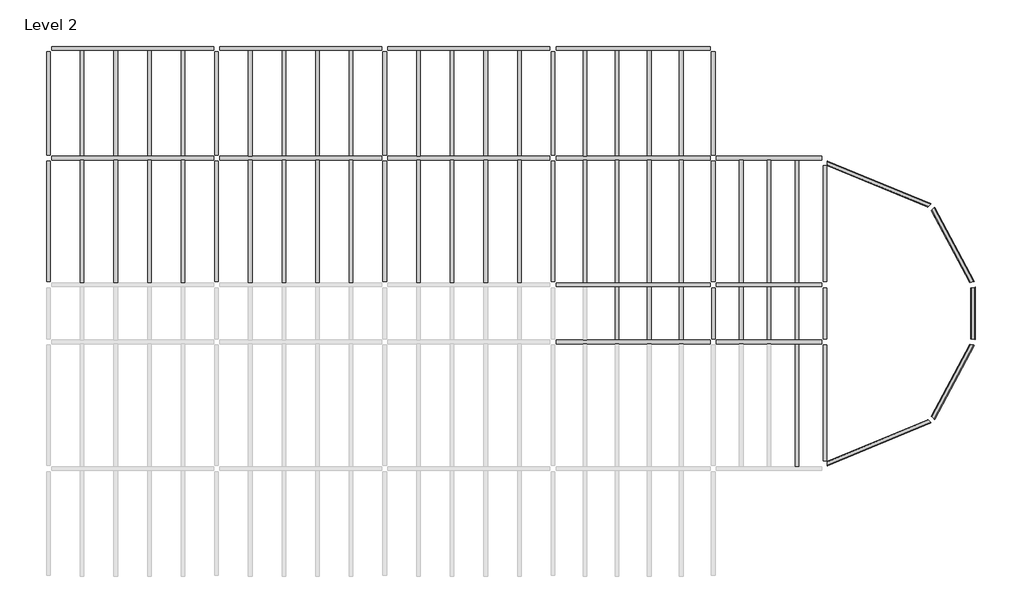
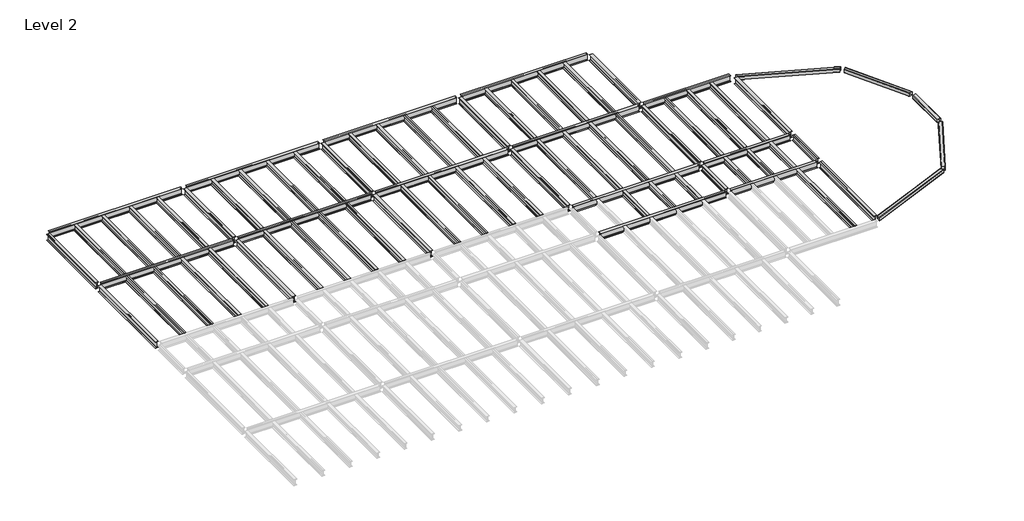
# One storey, part 2 of 2: 74 beams.
"""IFC4 building model written with IfcOpenShell, lengths in millimetres."""

from ifc_helpers import new_model, si_unit, origin, place, context, project, spatial, transform, mapped, element, save
from components import hss_square_hss8x8x3_8_81874951, hss_square_hss8x8x3_8_df46a162, hss_square_hss8x8x3_8_1cc8d9bf, hss_square_hss8x8x3_8_2c6f5ad9, w_shapes_w12x26_ac08b433, w_shapes_w12x26_80971791, w_shapes_w12x26_13ab2ca8, w_shapes_w12x26_1a00c8bd, w_shapes_w14x30_2b5df836, w_shapes_w14x30_7cdcd298, w_shapes_w14x30_aa676985, w_shapes_w14x30_0fa609c7, w_shapes_w14x30_8a2fed69, w_shapes_w14x30_0dffa004, w_shapes_w14x30_1dc52f8a

model = new_model("IFC4")

# Units and contexts
model_context = context("Model", 3, world=origin())
ifc_project = project(units=[si_unit("LENGTHUNIT", "METRE", prefix="MILLI")], contexts=[model_context])

# Site, building, storey
site = spatial("IfcSite", under=ifc_project)
building = spatial("IfcBuilding", under=site)
storey = spatial("IfcBuildingStorey", under=building, Name="Level 2", Elevation=3505.2)

# Beams
placement = place(None, origin())
hss_square_hss8x8x3_8_shape = hss_square_hss8x8x3_8_81874951(model_context)
element("IfcBeam", 1, ObjectType="HSS Square : HSS8X8X3/8", at=placement, inside=storey, context=model_context, shape_type="MappedRepresentation", body=[
    mapped(hss_square_hss8x8x3_8_shape, transform((17937.9339721, 4304.5648319, 3403.6), x_axis=(1.0, 0.0, 0.0), y_axis=(0.0, 1.0, 0.0), z_axis=(0.0, 0.0, 1.0))),
])
element("IfcBeam", 2, ObjectType="HSS Square : HSS8X8X3/8", at=placement, inside=storey, context=model_context, shape_type="MappedRepresentation", body=[
    mapped(hss_square_hss8x8x3_8_shape, transform((22753.596317, -7321.472513, 3403.6), x_axis=(-0.7071067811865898, -0.7071067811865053, 0.0), y_axis=(0.7071067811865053, -0.7071067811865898, 0.0), z_axis=(0.0, 0.0, 1.0))),
])
hss_square_hss8x8x3_8_2_shape = hss_square_hss8x8x3_8_df46a162(model_context)
element("IfcBeam", 3, ObjectType="HSS Square : HSS8X8X3/8", at=placement, inside=storey, context=model_context, shape_type="MappedRepresentation", body=[
    mapped(hss_square_hss8x8x3_8_2_shape, transform((22753.596317, 2309.8521769, 3403.6), x_axis=(0.7071067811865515, -0.7071067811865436, 0.0), y_axis=(0.7071067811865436, 0.7071067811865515, 0.0), z_axis=(0.0, 0.0, 1.0))),
])
hss_square_hss8x8x3_8_3_shape = hss_square_hss8x8x3_8_1cc8d9bf(model_context)
element("IfcBeam", 4, ObjectType="HSS Square : HSS8X8X3/8", at=placement, inside=storey, context=model_context, shape_type="MappedRepresentation", body=[
    mapped(hss_square_hss8x8x3_8_3_shape, transform((24623.6673698, -1208.8226681, 3403.6), x_axis=(0.19044289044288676, -0.9816982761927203, 0.0), y_axis=(0.9816982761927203, 0.19044289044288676, 0.0), z_axis=(0.0, 0.0, 1.0))),
])
hss_square_hss8x8x3_8_4_shape = hss_square_hss8x8x3_8_2c6f5ad9(model_context)
element("IfcBeam", 5, ObjectType="HSS Square : HSS8X8X3/8", at=placement, inside=storey, context=model_context, shape_type="MappedRepresentation", body=[
    mapped(hss_square_hss8x8x3_8_4_shape, transform((24623.6673698, -3802.7976681, 3403.6), x_axis=(-0.19044289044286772, -0.981698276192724, 0.0), y_axis=(0.981698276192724, -0.19044289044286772, 0.0), z_axis=(0.0, 0.0, 1.0))),
])
w_shapes_w12x26_shape = w_shapes_w12x26_ac08b433(model_context)
element("IfcBeam", 6, ObjectType="W Shapes : W12X26", at=placement, inside=storey, context=model_context, shape_type="MappedRepresentation", body=[
    mapped(w_shapes_w12x26_shape, transform((12884.9214721, -2505.8101681, 3350.26), x_axis=(0.0, -1.0, 0.0), y_axis=(1.0, 0.0, 0.0), z_axis=(0.0, 0.0, 1.0))),
])
element("IfcBeam", 7, ObjectType="W Shapes : W12X26", at=placement, inside=storey, context=model_context, shape_type="MappedRepresentation", body=[
    mapped(w_shapes_w12x26_shape, transform((17937.9339721, -2505.8101681, 3350.26), x_axis=(0.0, -1.0, 0.0), y_axis=(1.0, 0.0, 0.0), z_axis=(0.0, 0.0, 1.0))),
])
w_shapes_w12x26_2_shape = w_shapes_w12x26_80971791(model_context)
element("IfcBeam", 8, ObjectType="W Shapes : W12X26", at=placement, inside=storey, context=model_context, shape_type="MappedRepresentation", body=[
    mapped(w_shapes_w12x26_2_shape, transform((-15718.6535279, 7022.3648319, 3350.26), x_axis=(0.0, 1.0, 0.0), y_axis=(-1.0, 0.0, 0.0), z_axis=(0.0, 0.0, 1.0))),
])
element("IfcBeam", 9, ObjectType="W Shapes : W12X26", at=placement, inside=storey, context=model_context, shape_type="MappedRepresentation", body=[
    mapped(w_shapes_w12x26_2_shape, transform((-14194.6535279, 7022.3648319, 3350.26), x_axis=(0.0, 1.0, 0.0), y_axis=(-1.0, 0.0, 0.0), z_axis=(0.0, 0.0, 1.0))),
])
element("IfcBeam", 10, ObjectType="W Shapes : W12X26", at=placement, inside=storey, context=model_context, shape_type="MappedRepresentation", body=[
    mapped(w_shapes_w12x26_2_shape, transform((-12670.6535279, 7022.3648319, 3350.26), x_axis=(0.0, 1.0, 0.0), y_axis=(-1.0, 0.0, 0.0), z_axis=(0.0, 0.0, 1.0))),
])
element("IfcBeam", 11, ObjectType="W Shapes : W12X26", at=placement, inside=storey, context=model_context, shape_type="MappedRepresentation", body=[
    mapped(w_shapes_w12x26_2_shape, transform((-11146.6535279, 7022.3648319, 3350.26), x_axis=(0.0, 1.0, 0.0), y_axis=(-1.0, 0.0, 0.0), z_axis=(0.0, 0.0, 1.0))),
])
element("IfcBeam", 12, ObjectType="W Shapes : W12X26", at=placement, inside=storey, context=model_context, shape_type="MappedRepresentation", body=[
    mapped(w_shapes_w12x26_2_shape, transform((-3526.6535279, 7022.3648319, 3350.26), x_axis=(0.0, -1.0, 0.0), y_axis=(1.0, 0.0, 0.0), z_axis=(0.0, 0.0, 1.0))),
])
element("IfcBeam", 13, ObjectType="W Shapes : W12X26", at=placement, inside=storey, context=model_context, shape_type="MappedRepresentation", body=[
    mapped(w_shapes_w12x26_2_shape, transform((-5050.6535279, 7022.3648319, 3350.26), x_axis=(0.0, -1.0, 0.0), y_axis=(1.0, 0.0, 0.0), z_axis=(0.0, 0.0, 1.0))),
])
element("IfcBeam", 14, ObjectType="W Shapes : W12X26", at=placement, inside=storey, context=model_context, shape_type="MappedRepresentation", body=[
    mapped(w_shapes_w12x26_2_shape, transform((-6574.6535279, 7022.3648319, 3350.26), x_axis=(0.0, -1.0, 0.0), y_axis=(1.0, 0.0, 0.0), z_axis=(0.0, 0.0, 1.0))),
])
element("IfcBeam", 15, ObjectType="W Shapes : W12X26", at=placement, inside=storey, context=model_context, shape_type="MappedRepresentation", body=[
    mapped(w_shapes_w12x26_2_shape, transform((-8098.6535279, 7022.3648319, 3350.26), x_axis=(0.0, -1.0, 0.0), y_axis=(1.0, 0.0, 0.0), z_axis=(0.0, 0.0, 1.0))),
])
element("IfcBeam", 16, ObjectType="W Shapes : W12X26", at=placement, inside=storey, context=model_context, shape_type="MappedRepresentation", body=[
    mapped(w_shapes_w12x26_2_shape, transform((4093.3464721, 7022.3648319, 3350.26), x_axis=(0.0, -1.0, 0.0), y_axis=(1.0, 0.0, 0.0), z_axis=(0.0, 0.0, 1.0))),
])
element("IfcBeam", 17, ObjectType="W Shapes : W12X26", at=placement, inside=storey, context=model_context, shape_type="MappedRepresentation", body=[
    mapped(w_shapes_w12x26_2_shape, transform((2569.3464721, 7022.3648319, 3350.26), x_axis=(0.0, -1.0, 0.0), y_axis=(1.0, 0.0, 0.0), z_axis=(0.0, 0.0, 1.0))),
])
element("IfcBeam", 18, ObjectType="W Shapes : W12X26", at=placement, inside=storey, context=model_context, shape_type="MappedRepresentation", body=[
    mapped(w_shapes_w12x26_2_shape, transform((1045.3464721, 7022.3648319, 3350.26), x_axis=(0.0, -1.0, 0.0), y_axis=(1.0, 0.0, 0.0), z_axis=(0.0, 0.0, 1.0))),
])
element("IfcBeam", 19, ObjectType="W Shapes : W12X26", at=placement, inside=storey, context=model_context, shape_type="MappedRepresentation", body=[
    mapped(w_shapes_w12x26_2_shape, transform((-478.6535279, 7022.3648319, 3350.26), x_axis=(0.0, -1.0, 0.0), y_axis=(1.0, 0.0, 0.0), z_axis=(0.0, 0.0, 1.0))),
])
element("IfcBeam", 20, ObjectType="W Shapes : W12X26", at=placement, inside=storey, context=model_context, shape_type="MappedRepresentation", body=[
    mapped(w_shapes_w12x26_2_shape, transform((11431.4064721, 7022.3648319, 3350.26), x_axis=(0.0, -1.0, 0.0), y_axis=(1.0, 0.0, 0.0), z_axis=(0.0, 0.0, 1.0))),
])
element("IfcBeam", 21, ObjectType="W Shapes : W12X26", at=placement, inside=storey, context=model_context, shape_type="MappedRepresentation", body=[
    mapped(w_shapes_w12x26_2_shape, transform((9977.8914721, 7022.3648319, 3350.26), x_axis=(0.0, -1.0, 0.0), y_axis=(1.0, 0.0, 0.0), z_axis=(0.0, 0.0, 1.0))),
])
element("IfcBeam", 22, ObjectType="W Shapes : W12X26", at=placement, inside=storey, context=model_context, shape_type="MappedRepresentation", body=[
    mapped(w_shapes_w12x26_2_shape, transform((8524.3764721, 7022.3648319, 3350.26), x_axis=(0.0, -1.0, 0.0), y_axis=(1.0, 0.0, 0.0), z_axis=(0.0, 0.0, 1.0))),
])
element("IfcBeam", 23, ObjectType="W Shapes : W12X26", at=placement, inside=storey, context=model_context, shape_type="MappedRepresentation", body=[
    mapped(w_shapes_w12x26_2_shape, transform((7070.8614721, 7022.3648319, 3350.26), x_axis=(0.0, -1.0, 0.0), y_axis=(1.0, 0.0, 0.0), z_axis=(0.0, 0.0, 1.0))),
])
w_shapes_w12x26_3_shape = w_shapes_w12x26_13ab2ca8(model_context)
element("IfcBeam", 24, ObjectType="W Shapes : W12X26", at=placement, inside=storey, context=model_context, shape_type="MappedRepresentation", body=[
    mapped(w_shapes_w12x26_3_shape, transform((11431.4064721, 1662.9648319, 3350.26), x_axis=(0.0, -1.0, 0.0), y_axis=(1.0, 0.0, 0.0), z_axis=(0.0, 0.0, 1.0))),
])
element("IfcBeam", 25, ObjectType="W Shapes : W12X26", at=placement, inside=storey, context=model_context, shape_type="MappedRepresentation", body=[
    mapped(w_shapes_w12x26_3_shape, transform((9977.8914721, 1662.9648319, 3350.26), x_axis=(0.0, -1.0, 0.0), y_axis=(1.0, 0.0, 0.0), z_axis=(0.0, 0.0, 1.0))),
])
element("IfcBeam", 26, ObjectType="W Shapes : W12X26", at=placement, inside=storey, context=model_context, shape_type="MappedRepresentation", body=[
    mapped(w_shapes_w12x26_3_shape, transform((8524.3764721, 1662.9648319, 3350.26), x_axis=(0.0, -1.0, 0.0), y_axis=(1.0, 0.0, 0.0), z_axis=(0.0, 0.0, 1.0))),
])
element("IfcBeam", 27, ObjectType="W Shapes : W12X26", at=placement, inside=storey, context=model_context, shape_type="MappedRepresentation", body=[
    mapped(w_shapes_w12x26_3_shape, transform((7070.8614721, 1662.9648319, 3350.26), x_axis=(0.0, -1.0, 0.0), y_axis=(1.0, 0.0, 0.0), z_axis=(0.0, 0.0, 1.0))),
])
element("IfcBeam", 28, ObjectType="W Shapes : W12X26", at=placement, inside=storey, context=model_context, shape_type="MappedRepresentation", body=[
    mapped(w_shapes_w12x26_3_shape, transform((4093.3464721, 1662.9648319, 3350.26), x_axis=(0.0, -1.0, 0.0), y_axis=(1.0, 0.0, 0.0), z_axis=(0.0, 0.0, 1.0))),
])
element("IfcBeam", 29, ObjectType="W Shapes : W12X26", at=placement, inside=storey, context=model_context, shape_type="MappedRepresentation", body=[
    mapped(w_shapes_w12x26_3_shape, transform((2569.3464721, 1662.9648319, 3350.26), x_axis=(0.0, -1.0, 0.0), y_axis=(1.0, 0.0, 0.0), z_axis=(0.0, 0.0, 1.0))),
])
element("IfcBeam", 30, ObjectType="W Shapes : W12X26", at=placement, inside=storey, context=model_context, shape_type="MappedRepresentation", body=[
    mapped(w_shapes_w12x26_3_shape, transform((1045.3464721, 1662.9648319, 3350.26), x_axis=(0.0, -1.0, 0.0), y_axis=(1.0, 0.0, 0.0), z_axis=(0.0, 0.0, 1.0))),
])
element("IfcBeam", 31, ObjectType="W Shapes : W12X26", at=placement, inside=storey, context=model_context, shape_type="MappedRepresentation", body=[
    mapped(w_shapes_w12x26_3_shape, transform((-478.6535279, 1662.9648319, 3350.26), x_axis=(0.0, -1.0, 0.0), y_axis=(1.0, 0.0, 0.0), z_axis=(0.0, 0.0, 1.0))),
])
element("IfcBeam", 32, ObjectType="W Shapes : W12X26", at=placement, inside=storey, context=model_context, shape_type="MappedRepresentation", body=[
    mapped(w_shapes_w12x26_3_shape, transform((-3526.6535279, 1662.9648319, 3350.26), x_axis=(0.0, -1.0, 0.0), y_axis=(1.0, 0.0, 0.0), z_axis=(0.0, 0.0, 1.0))),
])
element("IfcBeam", 33, ObjectType="W Shapes : W12X26", at=placement, inside=storey, context=model_context, shape_type="MappedRepresentation", body=[
    mapped(w_shapes_w12x26_3_shape, transform((-5050.6535279, 1662.9648319, 3350.26), x_axis=(0.0, -1.0, 0.0), y_axis=(1.0, 0.0, 0.0), z_axis=(0.0, 0.0, 1.0))),
])
element("IfcBeam", 34, ObjectType="W Shapes : W12X26", at=placement, inside=storey, context=model_context, shape_type="MappedRepresentation", body=[
    mapped(w_shapes_w12x26_3_shape, transform((-6574.6535279, 1662.9648319, 3350.26), x_axis=(0.0, -1.0, 0.0), y_axis=(1.0, 0.0, 0.0), z_axis=(0.0, 0.0, 1.0))),
])
element("IfcBeam", 35, ObjectType="W Shapes : W12X26", at=placement, inside=storey, context=model_context, shape_type="MappedRepresentation", body=[
    mapped(w_shapes_w12x26_3_shape, transform((-8098.6535279, 1662.9648319, 3350.26), x_axis=(0.0, -1.0, 0.0), y_axis=(1.0, 0.0, 0.0), z_axis=(0.0, 0.0, 1.0))),
])
element("IfcBeam", 36, ObjectType="W Shapes : W12X26", at=placement, inside=storey, context=model_context, shape_type="MappedRepresentation", body=[
    mapped(w_shapes_w12x26_3_shape, transform((-15718.6535279, 1662.9648319, 3350.26), x_axis=(0.0, 1.0, 0.0), y_axis=(-1.0, 0.0, 0.0), z_axis=(0.0, 0.0, 1.0))),
])
element("IfcBeam", 37, ObjectType="W Shapes : W12X26", at=placement, inside=storey, context=model_context, shape_type="MappedRepresentation", body=[
    mapped(w_shapes_w12x26_3_shape, transform((-14194.6535279, 1662.9648319, 3350.26), x_axis=(0.0, 1.0, 0.0), y_axis=(-1.0, 0.0, 0.0), z_axis=(0.0, 0.0, 1.0))),
])
element("IfcBeam", 38, ObjectType="W Shapes : W12X26", at=placement, inside=storey, context=model_context, shape_type="MappedRepresentation", body=[
    mapped(w_shapes_w12x26_3_shape, transform((-12670.6535279, 1662.9648319, 3350.26), x_axis=(0.0, 1.0, 0.0), y_axis=(-1.0, 0.0, 0.0), z_axis=(0.0, 0.0, 1.0))),
])
element("IfcBeam", 39, ObjectType="W Shapes : W12X26", at=placement, inside=storey, context=model_context, shape_type="MappedRepresentation", body=[
    mapped(w_shapes_w12x26_3_shape, transform((-11146.6535279, 1662.9648319, 3350.26), x_axis=(0.0, 1.0, 0.0), y_axis=(-1.0, 0.0, 0.0), z_axis=(0.0, 0.0, 1.0))),
])
element("IfcBeam", 40, ObjectType="W Shapes : W12X26", at=placement, inside=storey, context=model_context, shape_type="MappedRepresentation", body=[
    mapped(w_shapes_w12x26_3_shape, transform((16674.6808471, 1662.9648319, 3350.26), x_axis=(0.0, -1.0, 0.0), y_axis=(1.0, 0.0, 0.0), z_axis=(0.0, 0.0, 1.0))),
])
element("IfcBeam", 41, ObjectType="W Shapes : W12X26", at=placement, inside=storey, context=model_context, shape_type="MappedRepresentation", body=[
    mapped(w_shapes_w12x26_3_shape, transform((15411.4277221, 1662.9648319, 3350.26), x_axis=(0.0, -1.0, 0.0), y_axis=(1.0, 0.0, 0.0), z_axis=(0.0, 0.0, 1.0))),
])
element("IfcBeam", 42, ObjectType="W Shapes : W12X26", at=placement, inside=storey, context=model_context, shape_type="MappedRepresentation", body=[
    mapped(w_shapes_w12x26_3_shape, transform((14148.1745971, 1662.9648319, 3350.26), x_axis=(0.0, -1.0, 0.0), y_axis=(1.0, 0.0, 0.0), z_axis=(0.0, 0.0, 1.0))),
])
element("IfcBeam", 43, ObjectType="W Shapes : W12X26", at=placement, inside=storey, context=model_context, shape_type="MappedRepresentation", body=[
    mapped(w_shapes_w12x26_3_shape, transform((16674.6808471, -6674.5851681, 3350.26), x_axis=(0.0, 1.0, 0.0), y_axis=(-1.0, 0.0, 0.0), z_axis=(0.0, 0.0, 1.0))),
])
w_shapes_w12x26_4_shape = w_shapes_w12x26_1a00c8bd(model_context)
element("IfcBeam", 44, ObjectType="W Shapes : W12X26", at=placement, inside=storey, context=model_context, shape_type="MappedRepresentation", body=[
    mapped(w_shapes_w12x26_4_shape, transform((11431.4064721, -2505.8101681, 3350.26), x_axis=(0.0, -1.0, 0.0), y_axis=(1.0, 0.0, 0.0), z_axis=(0.0, 0.0, 1.0))),
])
element("IfcBeam", 45, ObjectType="W Shapes : W12X26", at=placement, inside=storey, context=model_context, shape_type="MappedRepresentation", body=[
    mapped(w_shapes_w12x26_4_shape, transform((9977.8914721, -2505.8101681, 3350.26), x_axis=(0.0, -1.0, 0.0), y_axis=(1.0, 0.0, 0.0), z_axis=(0.0, 0.0, 1.0))),
])
element("IfcBeam", 46, ObjectType="W Shapes : W12X26", at=placement, inside=storey, context=model_context, shape_type="MappedRepresentation", body=[
    mapped(w_shapes_w12x26_4_shape, transform((8524.3764721, -2505.8101681, 3350.26), x_axis=(0.0, -1.0, 0.0), y_axis=(1.0, 0.0, 0.0), z_axis=(0.0, 0.0, 1.0))),
])
element("IfcBeam", 47, ObjectType="W Shapes : W12X26", at=placement, inside=storey, context=model_context, shape_type="MappedRepresentation", body=[
    mapped(w_shapes_w12x26_4_shape, transform((16674.6808471, -2505.8101681, 3350.26), x_axis=(0.0, -1.0, 0.0), y_axis=(1.0, 0.0, 0.0), z_axis=(0.0, 0.0, 1.0))),
])
element("IfcBeam", 48, ObjectType="W Shapes : W12X26", at=placement, inside=storey, context=model_context, shape_type="MappedRepresentation", body=[
    mapped(w_shapes_w12x26_4_shape, transform((15411.4277221, -2505.8101681, 3350.26), x_axis=(0.0, -1.0, 0.0), y_axis=(1.0, 0.0, 0.0), z_axis=(0.0, 0.0, 1.0))),
])
element("IfcBeam", 49, ObjectType="W Shapes : W12X26", at=placement, inside=storey, context=model_context, shape_type="MappedRepresentation", body=[
    mapped(w_shapes_w12x26_4_shape, transform((14148.1745971, -2505.8101681, 3350.26), x_axis=(0.0, -1.0, 0.0), y_axis=(1.0, 0.0, 0.0), z_axis=(0.0, 0.0, 1.0))),
])
w_shapes_w14x30_shape = w_shapes_w14x30_2b5df836(model_context)
element("IfcBeam", 50, ObjectType="W Shapes : W14X30", at=placement, inside=storey, context=model_context, shape_type="MappedRepresentation", body=[
    mapped(w_shapes_w14x30_shape, transform((-13432.6535279, 9509.9773319, 3329.94), x_axis=(1.0, 0.0, 0.0), y_axis=(0.0, 1.0, 0.0), z_axis=(0.0, 0.0, 1.0))),
])
element("IfcBeam", 51, ObjectType="W Shapes : W14X30", at=placement, inside=storey, context=model_context, shape_type="MappedRepresentation", body=[
    mapped(w_shapes_w14x30_shape, transform((-5812.6535279, 9509.9773319, 3329.94), x_axis=(1.0, 0.0, 0.0), y_axis=(0.0, 1.0, 0.0), z_axis=(0.0, 0.0, 1.0))),
])
element("IfcBeam", 52, ObjectType="W Shapes : W14X30", at=placement, inside=storey, context=model_context, shape_type="MappedRepresentation", body=[
    mapped(w_shapes_w14x30_shape, transform((1807.3464721, 9509.9773319, 3329.94), x_axis=(1.0, 0.0, 0.0), y_axis=(0.0, 1.0, 0.0), z_axis=(0.0, 0.0, 1.0))),
])
element("IfcBeam", 53, ObjectType="W Shapes : W14X30", at=placement, inside=storey, context=model_context, shape_type="MappedRepresentation", body=[
    mapped(w_shapes_w14x30_shape, transform((1807.3464721, 4534.7523319, 3329.94), x_axis=(-1.0, 0.0, 0.0), y_axis=(0.0, -1.0, 0.0), z_axis=(0.0, 0.0, 1.0))),
])
element("IfcBeam", 54, ObjectType="W Shapes : W14X30", at=placement, inside=storey, context=model_context, shape_type="MappedRepresentation", body=[
    mapped(w_shapes_w14x30_shape, transform((-5812.6535279, 4534.7523319, 3329.94), x_axis=(-1.0, 0.0, 0.0), y_axis=(0.0, -1.0, 0.0), z_axis=(0.0, 0.0, 1.0))),
])
element("IfcBeam", 55, ObjectType="W Shapes : W14X30", at=placement, inside=storey, context=model_context, shape_type="MappedRepresentation", body=[
    mapped(w_shapes_w14x30_shape, transform((-13432.6535279, 4534.7523319, 3329.94), x_axis=(-1.0, 0.0, 0.0), y_axis=(0.0, -1.0, 0.0), z_axis=(0.0, 0.0, 1.0))),
])
w_shapes_w14x30_2_shape = w_shapes_w14x30_7cdcd298(model_context)
element("IfcBeam", 56, ObjectType="W Shapes : W14X30", at=placement, inside=storey, context=model_context, shape_type="MappedRepresentation", body=[
    mapped(w_shapes_w14x30_2_shape, transform((9251.1339721, 9509.9773319, 3329.94), x_axis=(1.0, 0.0, 0.0), y_axis=(0.0, 1.0, 0.0), z_axis=(0.0, 0.0, 1.0))),
])
element("IfcBeam", 57, ObjectType="W Shapes : W14X30", at=placement, inside=storey, context=model_context, shape_type="MappedRepresentation", body=[
    mapped(w_shapes_w14x30_2_shape, transform((9251.1339721, -1208.8226681, 3329.94), x_axis=(-1.0, 0.0, 0.0), y_axis=(0.0, -1.0, 0.0), z_axis=(0.0, 0.0, 1.0))),
])
element("IfcBeam", 58, ObjectType="W Shapes : W14X30", at=placement, inside=storey, context=model_context, shape_type="MappedRepresentation", body=[
    mapped(w_shapes_w14x30_2_shape, transform((9251.1339721, 4534.7523319, 3329.94), x_axis=(-1.0, 0.0, 0.0), y_axis=(0.0, -1.0, 0.0), z_axis=(0.0, 0.0, 1.0))),
])
element("IfcBeam", 59, ObjectType="W Shapes : W14X30", at=placement, inside=storey, context=model_context, shape_type="MappedRepresentation", body=[
    mapped(w_shapes_w14x30_2_shape, transform((9251.1339721, -3802.7976681, 3329.94), x_axis=(1.0, 0.0, 0.0), y_axis=(0.0, 1.0, 0.0), z_axis=(0.0, 0.0, 1.0))),
])
w_shapes_w14x30_3_shape = w_shapes_w14x30_aa676985(model_context)
element("IfcBeam", 60, ObjectType="W Shapes : W14X30", at=placement, inside=storey, context=model_context, shape_type="MappedRepresentation", body=[
    mapped(w_shapes_w14x30_3_shape, transform((12884.9214721, 7022.3648319, 3329.94), x_axis=(0.0, -1.0, 0.0), y_axis=(1.0, 0.0, 0.0), z_axis=(0.0, 0.0, 1.0))),
])
element("IfcBeam", 61, ObjectType="W Shapes : W14X30", at=placement, inside=storey, context=model_context, shape_type="MappedRepresentation", body=[
    mapped(w_shapes_w14x30_3_shape, transform((-17242.6535279, 7022.3648319, 3329.94), x_axis=(0.0, 1.0, 0.0), y_axis=(-1.0, 0.0, 0.0), z_axis=(0.0, 0.0, 1.0))),
])
element("IfcBeam", 62, ObjectType="W Shapes : W14X30", at=placement, inside=storey, context=model_context, shape_type="MappedRepresentation", body=[
    mapped(w_shapes_w14x30_3_shape, transform((-9622.6535279, 7022.3648319, 3329.94), x_axis=(0.0, -1.0, 0.0), y_axis=(1.0, 0.0, 0.0), z_axis=(0.0, 0.0, 1.0))),
])
element("IfcBeam", 63, ObjectType="W Shapes : W14X30", at=placement, inside=storey, context=model_context, shape_type="MappedRepresentation", body=[
    mapped(w_shapes_w14x30_3_shape, transform((-2002.6535279, 7022.3648319, 3329.94), x_axis=(0.0, -1.0, 0.0), y_axis=(1.0, 0.0, 0.0), z_axis=(0.0, 0.0, 1.0))),
])
element("IfcBeam", 64, ObjectType="W Shapes : W14X30", at=placement, inside=storey, context=model_context, shape_type="MappedRepresentation", body=[
    mapped(w_shapes_w14x30_3_shape, transform((5617.3464721, 7022.3648319, 3329.94), x_axis=(0.0, -1.0, 0.0), y_axis=(1.0, 0.0, 0.0), z_axis=(0.0, 0.0, 1.0))),
])
w_shapes_w14x30_4_shape = w_shapes_w14x30_0fa609c7(model_context)
element("IfcBeam", 65, ObjectType="W Shapes : W14X30", at=placement, inside=storey, context=model_context, shape_type="MappedRepresentation", body=[
    mapped(w_shapes_w14x30_4_shape, transform((15411.4277221, 4534.7523319, 3329.94), x_axis=(1.0, 0.0, 0.0), y_axis=(0.0, 1.0, 0.0), z_axis=(0.0, 0.0, 1.0))),
])
element("IfcBeam", 66, ObjectType="W Shapes : W14X30", at=placement, inside=storey, context=model_context, shape_type="MappedRepresentation", body=[
    mapped(w_shapes_w14x30_4_shape, transform((15411.4277221, -1208.8226681, 3329.94), x_axis=(-1.0, 0.0, 0.0), y_axis=(0.0, -1.0, 0.0), z_axis=(0.0, 0.0, 1.0))),
])
element("IfcBeam", 67, ObjectType="W Shapes : W14X30", at=placement, inside=storey, context=model_context, shape_type="MappedRepresentation", body=[
    mapped(w_shapes_w14x30_4_shape, transform((15411.4277221, -3802.7976681, 3329.94), x_axis=(1.0, 0.0, 0.0), y_axis=(0.0, 1.0, 0.0), z_axis=(0.0, 0.0, 1.0))),
])
w_shapes_w14x30_5_shape = w_shapes_w14x30_8a2fed69(model_context)
element("IfcBeam", 68, ObjectType="W Shapes : W14X30", at=placement, inside=storey, context=model_context, shape_type="MappedRepresentation", body=[
    mapped(w_shapes_w14x30_5_shape, transform((17937.9339721, 1547.8710819, 3329.94), x_axis=(0.0, -1.0, 0.0), y_axis=(1.0, 0.0, 0.0), z_axis=(0.0, 0.0, 1.0))),
])
w_shapes_w14x30_6_shape = w_shapes_w14x30_0dffa004(model_context)
element("IfcBeam", 69, ObjectType="W Shapes : W14X30", at=placement, inside=storey, context=model_context, shape_type="MappedRepresentation", body=[
    mapped(w_shapes_w14x30_6_shape, transform((-17242.6535279, 1662.9648319, 3329.94), x_axis=(0.0, 1.0, 0.0), y_axis=(-1.0, 0.0, 0.0), z_axis=(0.0, 0.0, 1.0))),
])
element("IfcBeam", 70, ObjectType="W Shapes : W14X30", at=placement, inside=storey, context=model_context, shape_type="MappedRepresentation", body=[
    mapped(w_shapes_w14x30_6_shape, transform((-9622.6535279, 1662.9648319, 3329.94), x_axis=(0.0, -1.0, 0.0), y_axis=(1.0, 0.0, 0.0), z_axis=(0.0, 0.0, 1.0))),
])
element("IfcBeam", 71, ObjectType="W Shapes : W14X30", at=placement, inside=storey, context=model_context, shape_type="MappedRepresentation", body=[
    mapped(w_shapes_w14x30_6_shape, transform((-2002.6535279, 1662.9648319, 3329.94), x_axis=(0.0, -1.0, 0.0), y_axis=(1.0, 0.0, 0.0), z_axis=(0.0, 0.0, 1.0))),
])
element("IfcBeam", 72, ObjectType="W Shapes : W14X30", at=placement, inside=storey, context=model_context, shape_type="MappedRepresentation", body=[
    mapped(w_shapes_w14x30_6_shape, transform((5617.3464721, 1662.9648319, 3329.94), x_axis=(0.0, -1.0, 0.0), y_axis=(1.0, 0.0, 0.0), z_axis=(0.0, 0.0, 1.0))),
])
element("IfcBeam", 73, ObjectType="W Shapes : W14X30", at=placement, inside=storey, context=model_context, shape_type="MappedRepresentation", body=[
    mapped(w_shapes_w14x30_6_shape, transform((12884.9214721, 1662.9648319, 3329.94), x_axis=(0.0, -1.0, 0.0), y_axis=(1.0, 0.0, 0.0), z_axis=(0.0, 0.0, 1.0))),
])
w_shapes_w14x30_7_shape = w_shapes_w14x30_1dc52f8a(model_context)
element("IfcBeam", 74, ObjectType="W Shapes : W14X30", at=placement, inside=storey, context=model_context, shape_type="MappedRepresentation", body=[
    mapped(w_shapes_w14x30_7_shape, transform((17937.9339721, -6559.4914181, 3329.94), x_axis=(0.0, -1.0, 0.0), y_axis=(1.0, 0.0, 0.0), z_axis=(0.0, 0.0, 1.0))),
])

save(model, "model.ifc")
